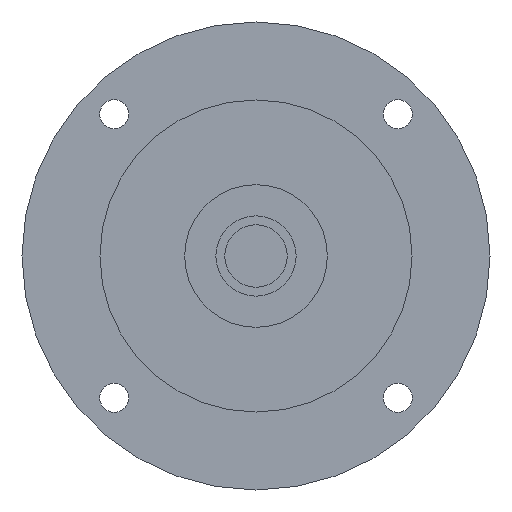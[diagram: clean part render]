
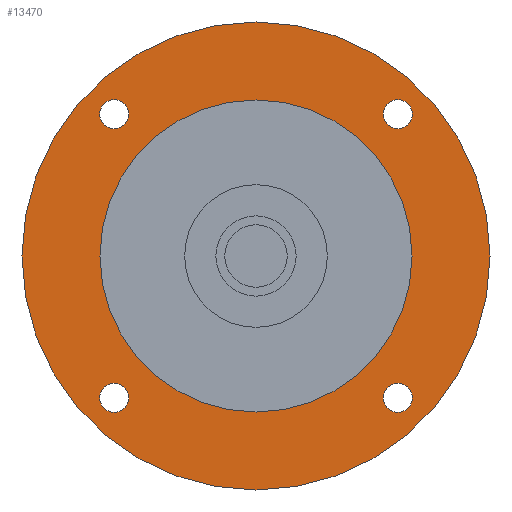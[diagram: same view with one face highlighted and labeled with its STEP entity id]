
A CAD part, left-side view. The second image highlights one B-rep face of the part: STEP entity #13470.
In plain terms, the highlighted planar face has unit normal (-1, 0, 0) as drawn and (0, 0, -1) by its records, which use the part's own axes.
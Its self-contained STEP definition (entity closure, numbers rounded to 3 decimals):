
#12310=CARTESIAN_POINT('',(-31.82,-28.57,-42.2));
#12320=VERTEX_POINT('',#12310);
#12350=CARTESIAN_POINT('',(-31.82,-31.82,-42.2));
#12360=DIRECTION('',(0.,0.,-1.));
#12370=DIRECTION('',(0.,-1.,0.));
#12380=AXIS2_PLACEMENT_3D('',#12350,#12360,#12370);
#12390=CIRCLE('',#12380,3.25);
#12400=CARTESIAN_POINT('',(-31.82,-35.07,-42.2));
#12410=VERTEX_POINT('',#12400);
#12420=EDGE_CURVE('',#12410,#12320,#12390,.T.);
#12540=CARTESIAN_POINT('',(0.,0.,
-42.2));
#12550=DIRECTION('',(0.,0.,-1.));
#12560=DIRECTION('',(1.,0.,0.));
#12570=AXIS2_PLACEMENT_3D('',#12540,#12550,#12560);
#12580=PLANE('',#12570);
#12590=CARTESIAN_POINT('',(31.82,-31.82,-42.2));
#12600=DIRECTION('',(0.,0.,-1.));
#12610=DIRECTION('',(1.,0.,0.));
#12620=AXIS2_PLACEMENT_3D('',#12590,#12600,#12610);
#12630=CIRCLE('',#12620,3.25);
#12640=CARTESIAN_POINT('',(35.07,-31.82,-42.2));
#12650=VERTEX_POINT('',#12640);
#12660=CARTESIAN_POINT('',(28.57,-31.82,-42.2));
#12670=VERTEX_POINT('',#12660);
#12680=EDGE_CURVE('',#12650,#12670,#12630,.T.);
#12690=ORIENTED_EDGE('',*,*,#12680,.F.);
#12700=EDGE_CURVE('',#12670,#12650,#12630,.T.);
#12710=ORIENTED_EDGE('',*,*,#12700,.F.);
#12720=EDGE_LOOP('',(#12710,#12690));
#12730=FACE_BOUND('',#12720,.T.);
#12740=CARTESIAN_POINT('',(0.,0.,
-42.2));
#12750=DIRECTION('',(0.,0.,-1.));
#12760=DIRECTION('',(0.,-1.,0.));
#12770=AXIS2_PLACEMENT_3D('',#12740,#12750,#12760);
#12780=CIRCLE('',#12770,52.5);
#12790=CARTESIAN_POINT('',(-52.5,0.,-42.2));
#12800=VERTEX_POINT('',#12790);
#12810=CARTESIAN_POINT('',(52.5,0.,-42.2));
#12820=VERTEX_POINT('',#12810);
#12830=EDGE_CURVE('',#12800,#12820,#12780,.T.);
#12840=ORIENTED_EDGE('',*,*,#12830,.T.);
#12850=CARTESIAN_POINT('',(0.,-52.5,-42.2));
#12860=VERTEX_POINT('',#12850);
#12870=EDGE_CURVE('',#12860,#12800,#12780,.T.);
#12880=ORIENTED_EDGE('',*,*,#12870,.T.);
#12890=EDGE_CURVE('',#12820,#12860,#12780,.T.);
#12900=ORIENTED_EDGE('',*,*,#12890,.T.);
#12910=EDGE_LOOP('',(#12900,#12880,#12840));
#12920=FACE_OUTER_BOUND('',#12910,.T.);
#12930=CARTESIAN_POINT('',(31.82,31.82,-42.2));
#12940=DIRECTION('',(0.,0.,-1.));
#12950=DIRECTION('',(0.,1.,0.));
#12960=AXIS2_PLACEMENT_3D('',#12930,#12940,#12950);
#12970=CIRCLE('',#12960,3.25);
#12980=CARTESIAN_POINT('',(31.82,35.07,-42.2));
#12990=VERTEX_POINT('',#12980);
#13000=CARTESIAN_POINT('',(31.82,28.57,-42.2));
#13010=VERTEX_POINT('',#13000);
#13020=EDGE_CURVE('',#12990,#13010,#12970,.T.);
#13030=ORIENTED_EDGE('',*,*,#13020,.F.);
#13040=EDGE_CURVE('',#13010,#12990,#12970,.T.);
#13050=ORIENTED_EDGE('',*,*,#13040,.F.);
#13060=EDGE_LOOP('',(#13050,#13030));
#13070=FACE_BOUND('',#13060,.T.);
#13080=CARTESIAN_POINT('',(-31.82,31.82,-42.2));
#13090=DIRECTION('',(0.,0.,-1.));
#13100=DIRECTION('',(-1.,0.,0.));
#13110=AXIS2_PLACEMENT_3D('',#13080,#13090,#13100);
#13120=CIRCLE('',#13110,3.25);
#13130=CARTESIAN_POINT('',(-35.07,31.82,-42.2));
#13140=VERTEX_POINT('',#13130);
#13150=CARTESIAN_POINT('',(-28.57,31.82,-42.2));
#13160=VERTEX_POINT('',#13150);
#13170=EDGE_CURVE('',#13140,#13160,#13120,.T.);
#13180=ORIENTED_EDGE('',*,*,#13170,.F.);
#13190=EDGE_CURVE('',#13160,#13140,#13120,.T.);
#13200=ORIENTED_EDGE('',*,*,#13190,.F.);
#13210=EDGE_LOOP('',(#13200,#13180));
#13220=FACE_BOUND('',#13210,.T.);
#13230=ORIENTED_EDGE('',*,*,#12420,.F.);
#13240=EDGE_CURVE('',#12320,#12410,#12390,.T.);
#13250=ORIENTED_EDGE('',*,*,#13240,.F.);
#13260=EDGE_LOOP('',(#13250,#13230));
#13270=FACE_BOUND('',#13260,.T.);
#13280=CARTESIAN_POINT('',(0.,0.,
-42.2));
#13290=DIRECTION('',(0.,0.,1.));
#13300=DIRECTION('',(0.,1.,0.));
#13310=AXIS2_PLACEMENT_3D('',#13280,#13290,#13300);
#13320=CIRCLE('',#13310,35.);
#13330=CARTESIAN_POINT('',(-35.,0.,-42.2));
#13340=VERTEX_POINT('',#13330);
#13350=CARTESIAN_POINT('',(35.,0.,-42.2));
#13360=VERTEX_POINT('',#13350);
#13370=EDGE_CURVE('',#13340,#13360,#13320,.T.);
#13380=ORIENTED_EDGE('',*,*,#13370,.T.);
#13390=CARTESIAN_POINT('',(0.,35.,-42.2));
#13400=VERTEX_POINT('',#13390);
#13410=EDGE_CURVE('',#13400,#13340,#13320,.T.);
#13420=ORIENTED_EDGE('',*,*,#13410,.T.);
#13430=EDGE_CURVE('',#13360,#13400,#13320,.T.);
#13440=ORIENTED_EDGE('',*,*,#13430,.T.);
#13450=EDGE_LOOP('',(#13440,#13420,#13380));
#13460=FACE_BOUND('',#13450,.T.);
#13470=ADVANCED_FACE('',(#12730,#12920,#13070,#13220,#13270,#13460),
#12580,.T.);
